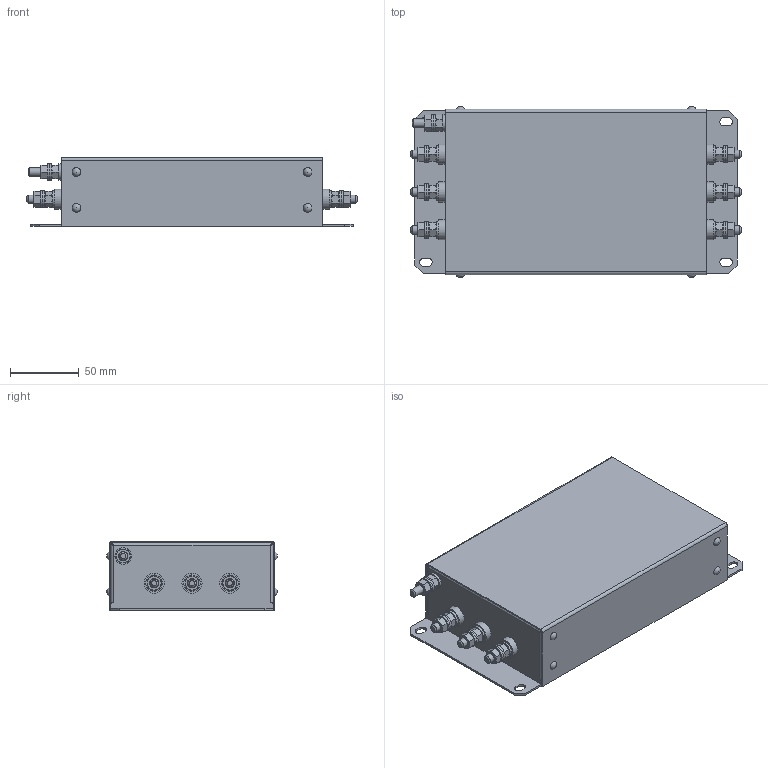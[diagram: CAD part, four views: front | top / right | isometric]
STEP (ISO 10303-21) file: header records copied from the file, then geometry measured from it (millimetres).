
FILE_DESCRIPTION(('STEP AP203'), '1');
FILE_NAME('ÝÌÑ ôèëüòð - IEF-15_35-4', '', ('UNSPECIFIED'), ('UNSPECIFIED'), 'C3D Converter', 'C3D Toolkit', '');
FILE_SCHEMA(('CONFIG_CONTROL_DESIGN'));
Length unit declared in the file: millimetre
Products named in the file (18): IEF-15_35-4; ГОСТ 10299-80; DIN 125 (A); DIN 934; ГОСТ 22032-76
Assembly tree (37 placements, depth 4):
  IEF-15_35-4
    IEF-15_35-4
      IEF-15_35-4
      IEF-15_35-4
      IEF-15_35-4
      ГОСТ 10299-80  x8
        (unnamed)
      IEF-15_35-4
    DIN 125 (A)  x3
      (unnamed)
    DIN 934  x2
      (unnamed)
    ГОСТ 22032-76
      (unnamed)
    IEF-15_35-4  x6
      ГОСТ 22032-76
        (unnamed)
      IEF-15_35-4
      DIN 125 (A)
        (unnamed)
      DIN 934
        (unnamed)
Bounding box: 240 x 124.2 x 50 mm (x, y, z)
Volume: 121789.5 mm3; surface area: 199107.8 mm2
Topology: 60 solids, 60 shells, 692 faces, 1374 edges, 822 vertices
Faces by surface type: plane 308, cone 210, cylinder 142, torus 16, bspline 8, sphere 8
Full cylindrical faces by diameter (mm): 3.5 x24, 4.917 x14, 6 x14, 6.4 x21, 8 x12, 12 x21, 14.6 x12
Entity records: 8114 total; most frequent: CARTESIAN_POINT 2003, DIRECTION 940, ORIENTED_EDGE 804, EDGE_CURVE 402, AXIS2_PLACEMENT_3D 349, EDGE_LOOP 304, VERTEX_POINT 268, LINE 242
